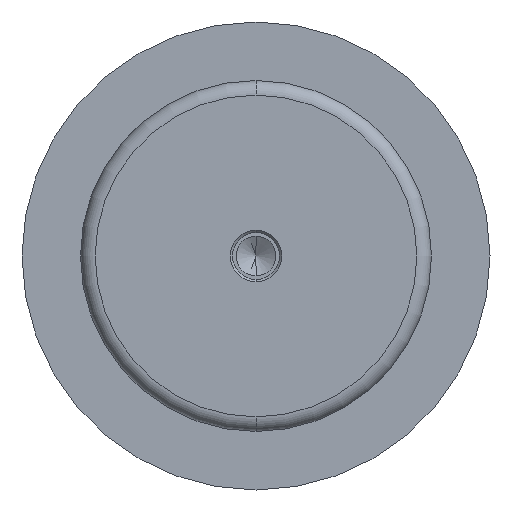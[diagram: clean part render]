
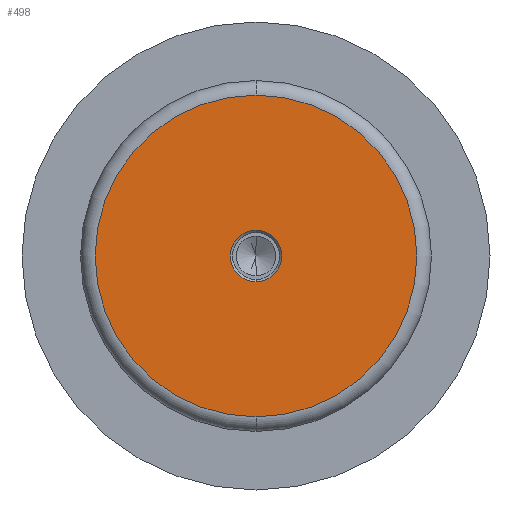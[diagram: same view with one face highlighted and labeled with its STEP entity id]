
A CAD part, front view. The second image highlights one B-rep face of the part: STEP entity #498.
In plain terms, the highlighted planar face has unit normal (0, -1, 0).
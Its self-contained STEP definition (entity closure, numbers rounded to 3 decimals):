
#12 = EDGE_LOOP ( 'NONE', ( #1065, #920 ) ) ;
#23 = CARTESIAN_POINT ( 'NONE',  ( 0., 0., -27.5 ) ) ;
#77 = ORIENTED_EDGE ( 'NONE', *, *, #649, .T. ) ;
#100 = CARTESIAN_POINT ( 'NONE',  ( 0., 0., 27.5 ) ) ;
#118 = CARTESIAN_POINT ( 'NONE',  ( 0., 0., 0. ) ) ;
#125 = PLANE ( 'NONE',  #333 ) ;
#127 = DIRECTION ( 'NONE',  ( 0., 1., 0. ) ) ;
#166 = DIRECTION ( 'NONE',  ( 0., 0., 1. ) ) ;
#211 = DIRECTION ( 'NONE',  ( 0., -1., 0. ) ) ;
#228 = VERTEX_POINT ( 'NONE', #332 ) ;
#234 = AXIS2_PLACEMENT_3D ( 'NONE', #580, #586, #589 ) ;
#237 = CARTESIAN_POINT ( 'NONE',  ( 0., 0., 0. ) ) ;
#251 = AXIS2_PLACEMENT_3D ( 'NONE', #983, #974, #969 ) ;
#254 = EDGE_LOOP ( 'NONE', ( #77, #1101 ) ) ;
#266 = DIRECTION ( 'NONE',  ( 0., -1., 0. ) ) ;
#279 = VERTEX_POINT ( 'NONE', #497 ) ;
#280 = AXIS2_PLACEMENT_3D ( 'NONE', #237, #211, #288 ) ;
#288 = DIRECTION ( 'NONE',  ( 0., 0., 1. ) ) ;
#311 = EDGE_CURVE ( 'NONE', #279, #228, #342, .T. ) ;
#332 = CARTESIAN_POINT ( 'NONE',  ( 0., 0., -4.4 ) ) ;
#333 = AXIS2_PLACEMENT_3D ( 'NONE', #118, #127, #166 ) ;
#342 = CIRCLE ( 'NONE', #234, 4.4 ) ;
#393 = VERTEX_POINT ( 'NONE', #100 ) ;
#430 = DIRECTION ( 'NONE',  ( 0., 0., 1. ) ) ;
#497 = CARTESIAN_POINT ( 'NONE',  ( 0., 0., 4.4 ) ) ;
#498 = ADVANCED_FACE ( 'NONE', ( #822, #850 ), #125, .F. ) ;
#529 = EDGE_CURVE ( 'NONE', #393, #853, #793, .T. ) ;
#580 = CARTESIAN_POINT ( 'NONE',  ( 0., 0., 0. ) ) ;
#586 = DIRECTION ( 'NONE',  ( 0., 1., 0. ) ) ;
#589 = DIRECTION ( 'NONE',  ( 0., 0., 1. ) ) ;
#595 = EDGE_CURVE ( 'NONE', #853, #393, #708, .T. ) ;
#649 = EDGE_CURVE ( 'NONE', #228, #279, #1067, .T. ) ;
#708 = CIRCLE ( 'NONE', #862, 27.5 ) ;
#793 = CIRCLE ( 'NONE', #280, 27.5 ) ;
#822 = FACE_BOUND ( 'NONE', #254, .T. ) ;
#850 = FACE_OUTER_BOUND ( 'NONE', #12, .T. ) ;
#853 = VERTEX_POINT ( 'NONE', #23 ) ;
#862 = AXIS2_PLACEMENT_3D ( 'NONE', #1005, #266, #430 ) ;
#920 = ORIENTED_EDGE ( 'NONE', *, *, #595, .T. ) ;
#969 = DIRECTION ( 'NONE',  ( 0., 0., 1. ) ) ;
#974 = DIRECTION ( 'NONE',  ( 0., 1., 0. ) ) ;
#983 = CARTESIAN_POINT ( 'NONE',  ( 0., 0., 0. ) ) ;
#1005 = CARTESIAN_POINT ( 'NONE',  ( 0., 0., 0. ) ) ;
#1065 = ORIENTED_EDGE ( 'NONE', *, *, #529, .T. ) ;
#1067 = CIRCLE ( 'NONE', #251, 4.4 ) ;
#1101 = ORIENTED_EDGE ( 'NONE', *, *, #311, .T. ) ;
